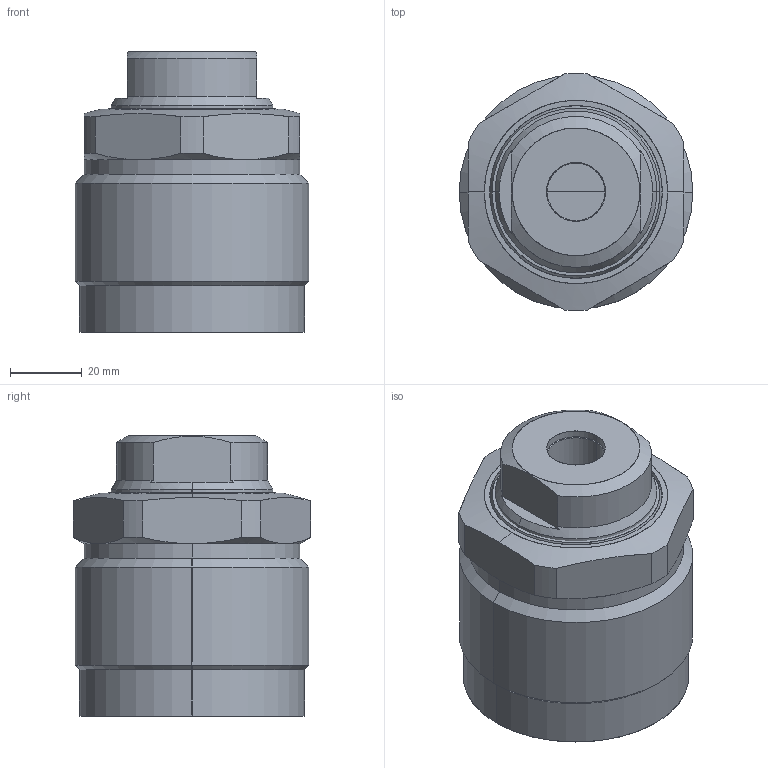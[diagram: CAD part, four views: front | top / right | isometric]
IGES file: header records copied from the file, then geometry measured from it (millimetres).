
Start section: SolidWorks IGES file using analytic representation for surfaces
Global section: file name: D:\abhilash\nijil\cylinder\Clasys1\dp converted\08\pt\0801\0102-0801.IGS; native system: SolidWorks 2010; preprocessor: SolidWorks 2010; author: nidheesh; date: 130730.113122; units: millimetre
Bounding box: 65 x 65.97 x 78 mm (x, y, z)
Surface area: 26613.4 mm2 (no closed solid volume)
Topology: 0 solids, 0 shells, 78 faces, 1096 edges, 1094 vertices
Faces by surface type: revolution 56, bspline 22
